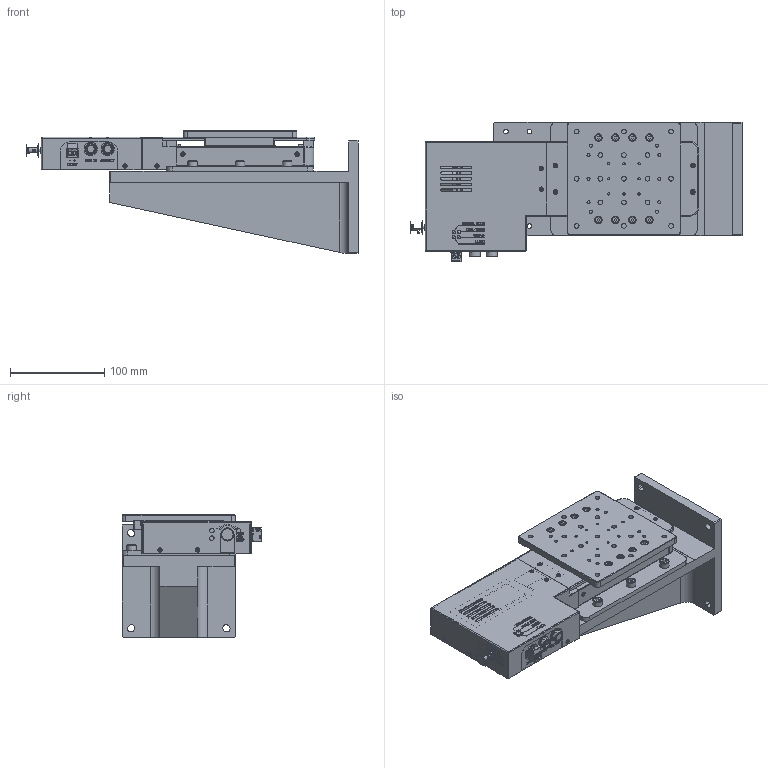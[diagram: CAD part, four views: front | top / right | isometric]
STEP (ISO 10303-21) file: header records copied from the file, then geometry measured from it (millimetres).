
FILE_DESCRIPTION(/* description */ ('OSMS2605-M01-13001'),/* implementation_level */ '2;1');
FILE_NAME(/* name */ 'Y:\1_motorized_stages\05_電子カタログ\47_SBIS\SBIS26-35Z-M6\SBIS26-35Z-M6_STP.stp',/* time_stamp */ '2022-04-14T16:04:51+09:00',/* author */ ('s.hamada'),/* organization */ (''),/* preprocessor_version */ 'ST-DEVELOPER v18.1',/* originating_system */ 'Autodesk Inventor 2021',/* authorisation */ '');
FILE_SCHEMA (('AUTOMOTIVE_DESIGN { 1 0 10303 214 3 1 1 }'));
Products named in the file (3): SB2603ZM-M02-22001 A; SB2603ZM-M02-22001-S20; SB2603M-M02-22001-S03
Assembly tree (2 placements, depth 2):
  SB2603ZM-M02-22001 A
    SB2603ZM-M02-22001-S20
    SB2603M-M02-22001-S03
Bounding box: 351.5 x 148 x 130 mm (x, y, z)
Volume: 1527815.5 mm3; surface area: 393453.4 mm2
Topology: 10 solids, 10 shells, 3916 faces, 10269 edges, 6645 vertices
Faces by surface type: plane 2663, cylinder 760, bspline 311, cone 151, torus 22, sphere 9
Full cylindrical faces by diameter (mm): 0.434 x1, 0.609 x1, 1.4 x2, 1.567 x9, 1.6 x2, 2.013 x4, 2.1 x1, 2.113 x7, 2.2 x7, 2.459 x18, 2.5 x1, 2.6 x13, 3 x22, 3.242 x26, 3.5 x16, 3.783 x2, 3.8 x2, 4 x29, 4.5 x15, 4.917 x35, 5 x2, 5.5 x5, 6 x3, 7 x9, 7.5 x1, 7.6 x1, 7.7 x2, 8 x22, 8.6 x2, 9 x4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
Entity records: 128183 total; most frequent: CARTESIAN_POINT 27925, ORIENTED_EDGE 20464, DIRECTION 18723, EDGE_CURVE 10232, LINE 7439, VECTOR 7439, VERTEX_POINT 6644, AXIS2_PLACEMENT_3D 5642
